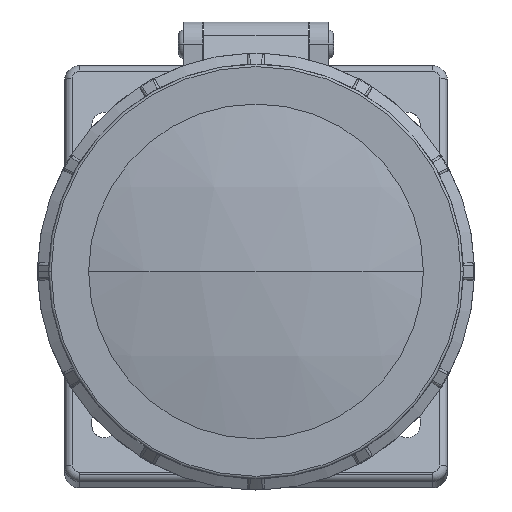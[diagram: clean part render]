
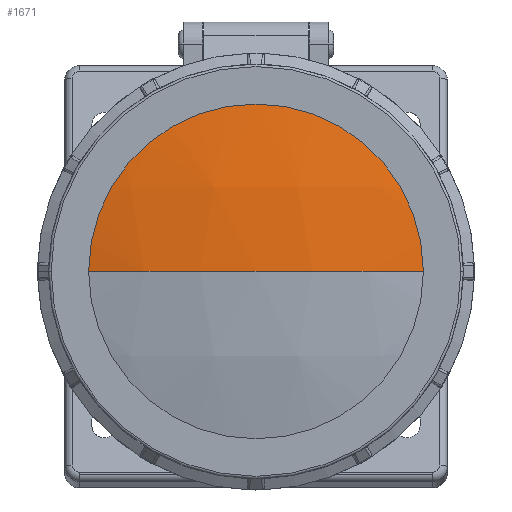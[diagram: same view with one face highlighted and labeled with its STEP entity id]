
A CAD part, top view. The second image highlights one B-rep face of the part: STEP entity #1671.
In plain terms, the highlighted spherical face has radius 151 mm.
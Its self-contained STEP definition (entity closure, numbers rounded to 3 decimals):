
#611 = VERTEX_POINT ( 'NONE', #9603 ) ;
#742 = CIRCLE ( 'NONE', #12657, 151. ) ;
#1387 = CARTESIAN_POINT ( 'NONE',  ( 0., 0., -130. ) ) ;
#1498 = EDGE_CURVE ( 'NONE', #611, #3480, #11467, .T. ) ;
#1671 = ADVANCED_FACE ( 'NONE', ( #7076 ), #5726, .T. ) ;
#2106 = ORIENTED_EDGE ( 'NONE', *, *, #12179, .T. ) ;
#2579 = DIRECTION ( 'NONE',  ( 0., 1., 0. ) ) ;
#2960 = CARTESIAN_POINT ( 'NONE',  ( 0., 0., -130. ) ) ;
#3030 = CARTESIAN_POINT ( 'NONE',  ( 0., 0., 17.294 ) ) ;
#3480 = VERTEX_POINT ( 'NONE', #14204 ) ;
#4417 = DIRECTION ( 'NONE',  ( 0., 0., -1. ) ) ;
#4957 = DIRECTION ( 'NONE',  ( -1., 0., 0. ) ) ;
#5401 = EDGE_LOOP ( 'NONE', ( #13523, #2106, #7199 ) ) ;
#5726 = SPHERICAL_SURFACE ( 'NONE', #7749, 151. ) ;
#6666 = DIRECTION ( 'NONE',  ( -1., 0., 0. ) ) ;
#7076 = FACE_OUTER_BOUND ( 'NONE', #5401, .T. ) ;
#7199 = ORIENTED_EDGE ( 'NONE', *, *, #13907, .F. ) ;
#7749 = AXIS2_PLACEMENT_3D ( 'NONE', #8376, #2579, #4957 ) ;
#8072 = AXIS2_PLACEMENT_3D ( 'NONE', #2960, #14118, #4417 ) ;
#8376 = CARTESIAN_POINT ( 'NONE',  ( 0., 0., -130. ) ) ;
#8896 = AXIS2_PLACEMENT_3D ( 'NONE', #3030, #10196, #6666 ) ;
#9603 = CARTESIAN_POINT ( 'NONE',  ( 0., 0., 21. ) ) ;
#10196 = DIRECTION ( 'NONE',  ( 0., 0., -1. ) ) ;
#10664 = VERTEX_POINT ( 'NONE', #13070 ) ;
#10869 = DIRECTION ( 'NONE',  ( -1., 0., 0. ) ) ;
#11467 = CIRCLE ( 'NONE', #8072, 151. ) ;
#12179 = EDGE_CURVE ( 'NONE', #611, #10664, #742, .T. ) ;
#12657 = AXIS2_PLACEMENT_3D ( 'NONE', #1387, #14483, #10869 ) ;
#13070 = CARTESIAN_POINT ( 'NONE',  ( 33.25, 0., 17.294 ) ) ;
#13390 = CIRCLE ( 'NONE', #8896, 33.25 ) ;
#13523 = ORIENTED_EDGE ( 'NONE', *, *, #1498, .F. ) ;
#13907 = EDGE_CURVE ( 'NONE', #3480, #10664, #13390, .T. ) ;
#14118 = DIRECTION ( 'NONE',  ( 0., -1., 0. ) ) ;
#14204 = CARTESIAN_POINT ( 'NONE',  ( -33.25, 0., 17.294 ) ) ;
#14483 = DIRECTION ( 'NONE',  ( 0., 1., 0. ) ) ;
